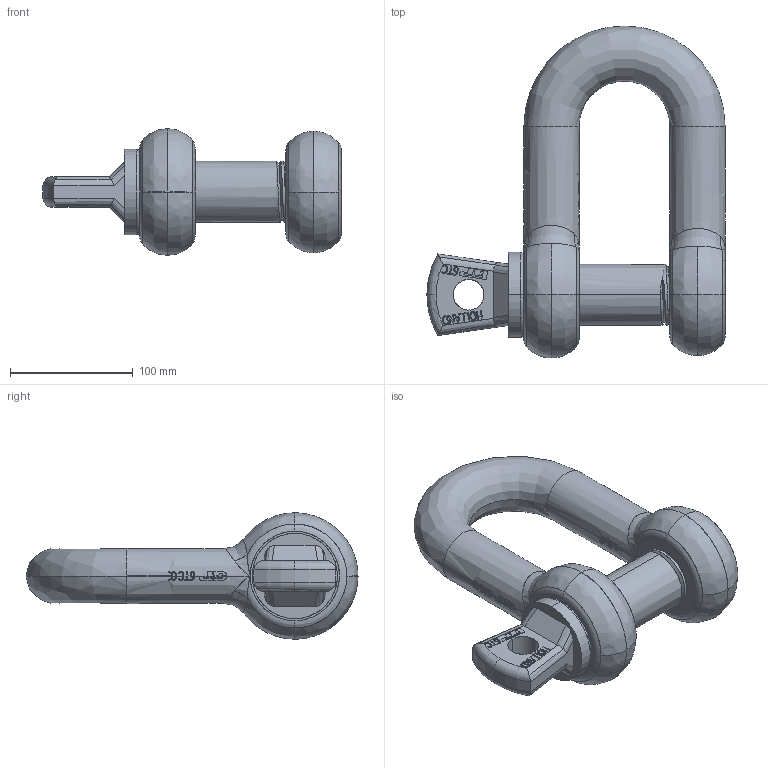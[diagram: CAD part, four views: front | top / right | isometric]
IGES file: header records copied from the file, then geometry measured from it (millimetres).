
Start section: START RECORD GO HERE.
Global section: file name: 25.igs; native system: Solidworks 2009      A Version 5 Release 17 ; preprocessor: Solidworks                 ; author: v.b.; organization: P4; date: 20090807.081641; units: millimetre
Bounding box: 243 x 270.5 x 103 mm (x, y, z)
Surface area: 158806.1 mm2 (no closed solid volume)
Topology: 0 solids, 0 shells, 783 faces, 5368 edges, 5360 vertices
Faces by surface type: bspline 338, plane 298, revolution 147
